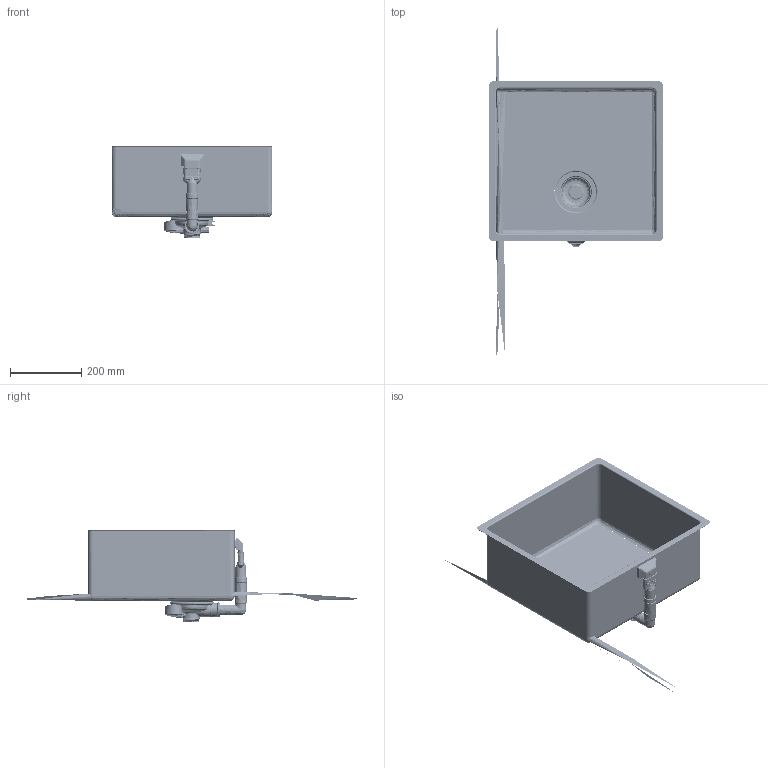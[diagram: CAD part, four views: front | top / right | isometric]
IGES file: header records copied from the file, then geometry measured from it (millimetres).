
Global section: file name: J:\2016\CLX\FRANKE\materiale ricevuto\Sinks\Sinks\Franke Box\Requested\210_110 45\BXX_210_110_45.igs; native system: Rhinoceros ( Jun  9 2014 ); preprocessor: Trout Lake IGES 012 Jun  9 2014; date: 160408.102217; units: millimetre
Bounding box: 490 x 932.66 x 259.81 mm (x, y, z)
Surface area: 1272899 mm2 (no closed solid volume)
Topology: 0 solids, 0 shells, 5584 faces, 35989 edges, 35746 vertices
Faces by surface type: bspline 5584
